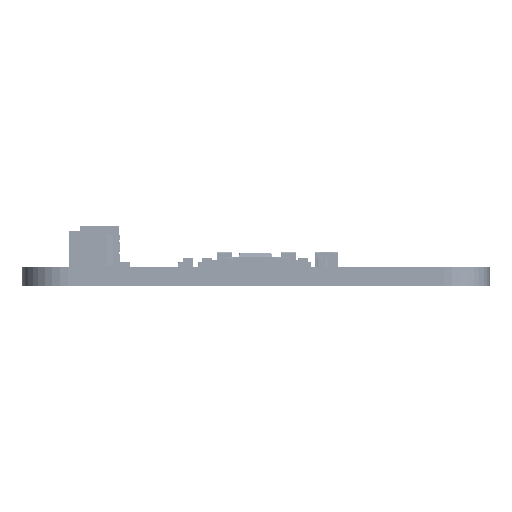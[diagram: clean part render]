
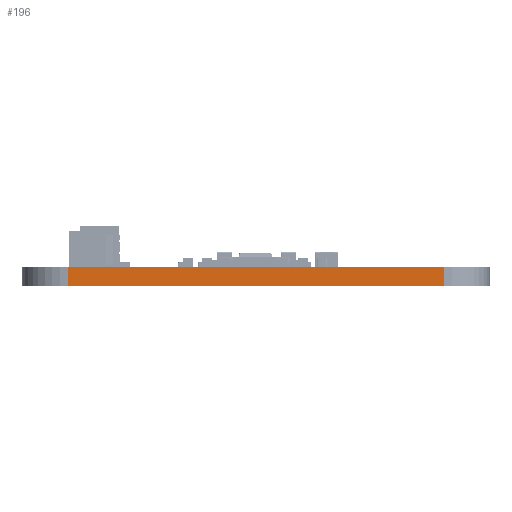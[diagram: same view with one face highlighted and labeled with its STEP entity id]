
A CAD part, front view. The second image highlights one B-rep face of the part: STEP entity #196.
In plain terms, the highlighted planar face has unit normal (0, -1, 0).
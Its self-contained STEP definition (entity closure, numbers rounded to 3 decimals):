
#169 = VERTEX_POINT('',#170);
#170 = CARTESIAN_POINT('',(16.353,-22.794,    1.6));
#177 = EDGE_CURVE('',#178,#169,#180,.T.);
#178 = VERTEX_POINT('',#179);
#179 = CARTESIAN_POINT('',(16.353,-22.794,0.));
#180 = LINE('',#181,#182);
#181 = CARTESIAN_POINT('',(16.353,-22.794,0.));
#182 = VECTOR('',#183,1.);
#183 = DIRECTION('',(0.,0.,1.));
#196 = ADVANCED_FACE('',(#197),#222,.T.);
#197 = FACE_BOUND('',#198,.T.);
#198 = EDGE_LOOP('',(#199,#200,#208,#216));
#199 = ORIENTED_EDGE('',*,*,#177,.T.);
#200 = ORIENTED_EDGE('',*,*,#201,.T.);
#201 = EDGE_CURVE('',#169,#202,#204,.T.);
#202 = VERTEX_POINT('',#203);
#203 = CARTESIAN_POINT('',(-15.845,-22.794,1.6    ));
#204 = LINE('',#205,#206);
#205 = CARTESIAN_POINT('',(16.353,-22.794,    1.6));
#206 = VECTOR('',#207,1.);
#207 = DIRECTION('',(-1.,0.,0.));
#208 = ORIENTED_EDGE('',*,*,#209,.F.);
#209 = EDGE_CURVE('',#210,#202,#212,.T.);
#210 = VERTEX_POINT('',#211);
#211 = CARTESIAN_POINT('',(-15.845,-22.794,0.));
#212 = LINE('',#213,#214);
#213 = CARTESIAN_POINT('',(-15.845,-22.794,0.));
#214 = VECTOR('',#215,1.);
#215 = DIRECTION('',(0.,0.,1.));
#216 = ORIENTED_EDGE('',*,*,#217,.F.);
#217 = EDGE_CURVE('',#178,#210,#218,.T.);
#218 = LINE('',#219,#220);
#219 = CARTESIAN_POINT('',(16.353,-22.794,0.));
#220 = VECTOR('',#221,1.);
#221 = DIRECTION('',(-1.,0.,0.));
#222 = PLANE('',#223);
#223 = AXIS2_PLACEMENT_3D('',#224,#225,#226);
#224 = CARTESIAN_POINT('',(16.353,-22.794,0.));
#225 = DIRECTION('',(0.,-1.,0.));
#226 = DIRECTION('',(-1.,0.,0.));
